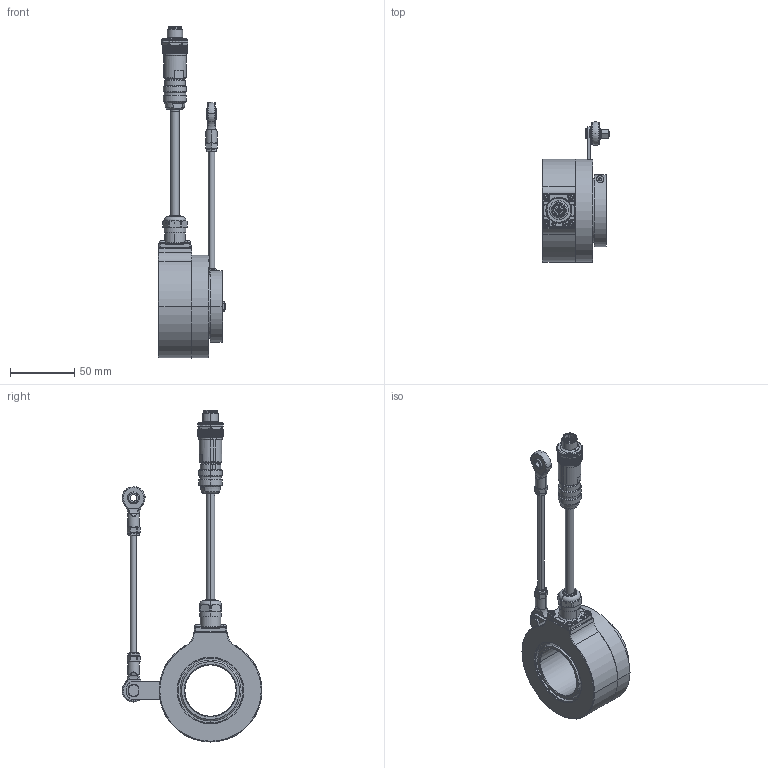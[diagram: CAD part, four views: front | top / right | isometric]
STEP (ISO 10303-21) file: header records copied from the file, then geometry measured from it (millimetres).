
FILE_DESCRIPTION (( 'STEP AP203' ), '1' );
FILE_NAME ('K80I.OXX.XXXXX.XH17840.6XR13.XXXX.step', '2025-12-09T08:47:39', ( '' ), ( '' ), 'SwSTEP 2.0', 'SolidWorks 2021', '' );
FILE_SCHEMA (( 'CONFIG_CONTROL_DESIGN' ));
Length unit declared in the file: millimetre
Products named in the file (1): K80I.OXX.XXXXX.XH17840.6XR13.XXXX
Bounding box: 52.6 x 108.97 x 258.56 mm (x, y, z)
Volume: 198744.7 mm3; surface area: 75194.1 mm2
Topology: 29 solids, 29 shells, 1863 faces, 4594 edges, 2798 vertices
Faces by surface type: plane 690, cylinder 592, cone 374, bspline 112, torus 65, sphere 30
Entity records: 59312 total; most frequent: CARTESIAN_POINT 16664, ORIENTED_EDGE 9088, DIRECTION 8773, EDGE_CURVE 4544, AXIS2_PLACEMENT_3D 3493, VERTEX_POINT 2792, EDGE_LOOP 1956, FACE_OUTER_BOUND 1863
